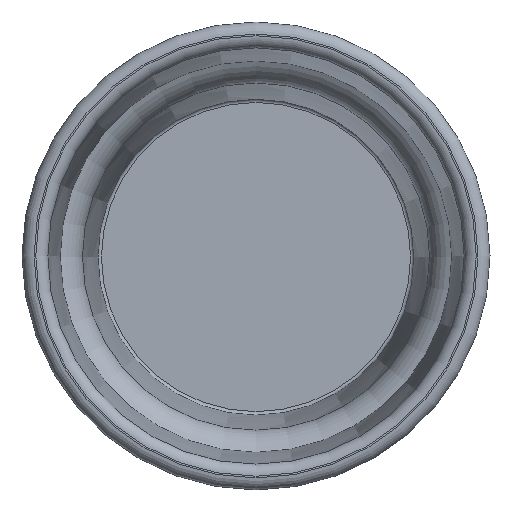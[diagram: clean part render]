
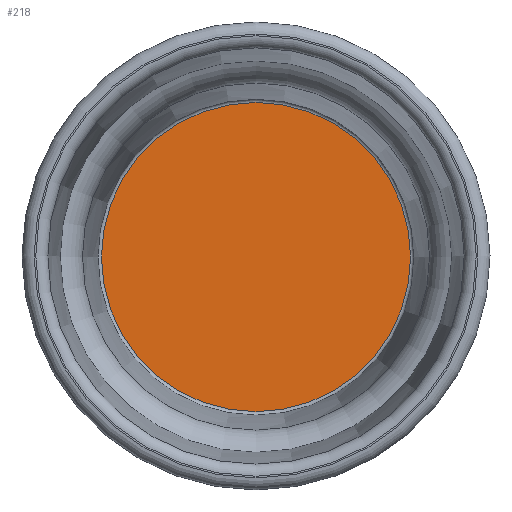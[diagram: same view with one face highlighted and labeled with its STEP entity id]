
A CAD part, top view. The second image highlights one B-rep face of the part: STEP entity #218.
In plain terms, the highlighted planar face has unit normal (0, 0, 1).
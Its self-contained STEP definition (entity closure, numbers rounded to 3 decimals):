
#34=PLANE('',#269);
#68=ORIENTED_EDGE('',*,*,#88,.T.);
#88=EDGE_CURVE('',#106,#106,#124,.F.);
#106=VERTEX_POINT('',#402);
#124=CIRCLE('',#270,22.417);
#158=EDGE_LOOP('',(#68));
#194=FACE_BOUND('',#158,.T.);
#218=ADVANCED_FACE('',(#194),#34,.F.);
#269=AXIS2_PLACEMENT_3D('',#400,#342,#343);
#270=AXIS2_PLACEMENT_3D('',#401,#344,#345);
#342=DIRECTION('',(0.,0.,-1.));
#343=DIRECTION('',(-1.,0.,0.));
#344=DIRECTION('',(0.,0.,-1.));
#345=DIRECTION('',(-1.,0.,0.));
#400=CARTESIAN_POINT('',(0.,0.,-39.25));
#401=CARTESIAN_POINT('',(0.,0.,-39.25));
#402=CARTESIAN_POINT('',(-22.417,0.,-39.25));
